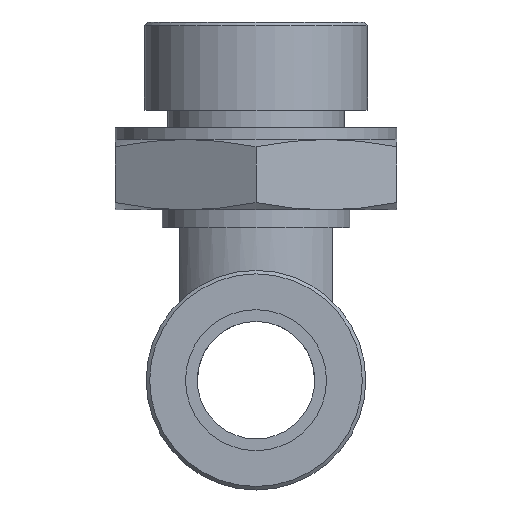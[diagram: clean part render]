
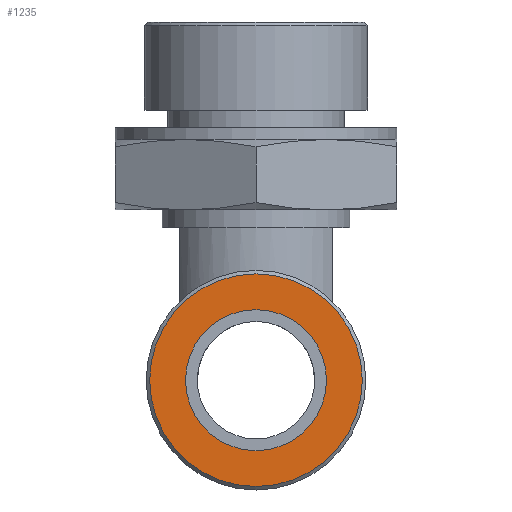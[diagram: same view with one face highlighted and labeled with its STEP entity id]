
A CAD part, front view. The second image highlights one B-rep face of the part: STEP entity #1235.
In plain terms, the highlighted planar face has unit normal (0, -1, 0).
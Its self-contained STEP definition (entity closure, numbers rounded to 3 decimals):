
#85=FACE_BOUND('',#286,.T.);
#116=PLANE('',#1458);
#193=FACE_OUTER_BOUND('',#285,.T.);
#285=EDGE_LOOP('',(#1059));
#286=EDGE_LOOP('',(#1060));
#460=CIRCLE('',#1393,6.);
#489=CIRCLE('',#1455,9.05);
#562=VERTEX_POINT('',#2129);
#601=VERTEX_POINT('',#2263);
#695=EDGE_CURVE('',#562,#562,#460,.T.);
#760=EDGE_CURVE('',#601,#601,#489,.T.);
#1059=ORIENTED_EDGE('',*,*,#760,.F.);
#1060=ORIENTED_EDGE('',*,*,#695,.T.);
#1235=ADVANCED_FACE('',(#193,#85),#116,.F.);
#1393=AXIS2_PLACEMENT_3D('',#2130,#1652,#1653);
#1455=AXIS2_PLACEMENT_3D('',#2265,#1810,#1811);
#1458=AXIS2_PLACEMENT_3D('',#2270,#1817,#1818);
#1652=DIRECTION('center_axis',(0.,1.,0.));
#1653=DIRECTION('ref_axis',(1.,0.,0.));
#1810=DIRECTION('center_axis',(0.,1.,0.));
#1811=DIRECTION('ref_axis',(-1.,0.,0.));
#1817=DIRECTION('center_axis',(0.,1.,0.));
#1818=DIRECTION('ref_axis',(0.,0.,1.));
#2129=CARTESIAN_POINT('',(-6.,-28.,0.));
#2130=CARTESIAN_POINT('Origin',(0.,-28.,0.));
#2263=CARTESIAN_POINT('',(9.05,-28.,0.));
#2265=CARTESIAN_POINT('Origin',(0.,-28.,0.));
#2270=CARTESIAN_POINT('Origin',(0.,-28.,0.));
